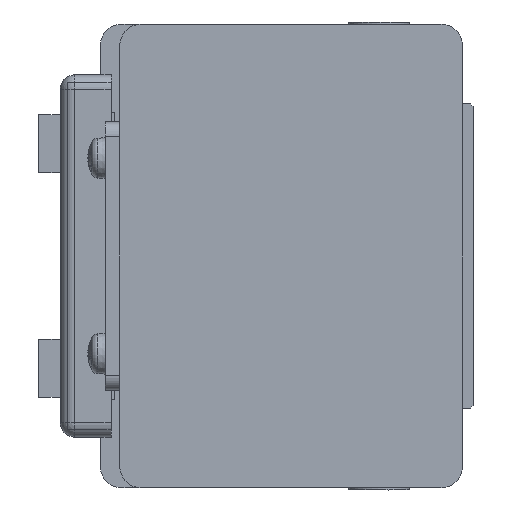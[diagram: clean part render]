
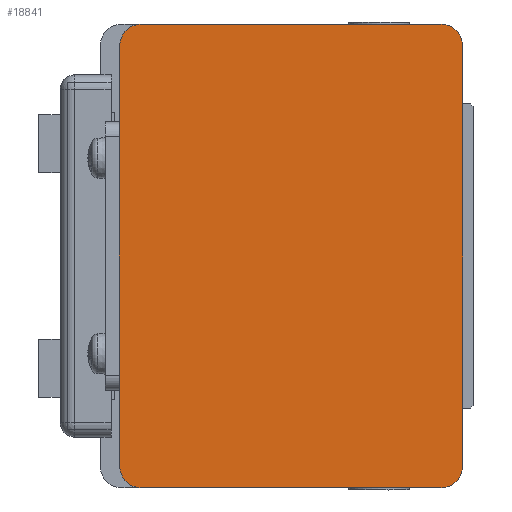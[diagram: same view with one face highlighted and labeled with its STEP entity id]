
A CAD part, left-side view. The second image highlights one B-rep face of the part: STEP entity #18841.
In plain terms, the highlighted planar face has unit normal (-1, 0, 0) as drawn and (0, 0, -1) by its records, which use the part's own axes.
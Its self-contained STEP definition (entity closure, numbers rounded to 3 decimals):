
#779=LINE('',#26563,#2431);
#794=LINE('',#26605,#2446);
#839=LINE('',#26714,#2491);
#861=LINE('',#26783,#2513);
#874=LINE('',#26818,#2526);
#875=LINE('',#26821,#2527);
#876=LINE('',#26822,#2528);
#877=LINE('',#26827,#2529);
#2431=VECTOR('',#21701,19.);
#2446=VECTOR('',#21734,41.3);
#2491=VECTOR('',#21823,41.3);
#2513=VECTOR('',#21883,19.);
#2526=VECTOR('',#21918,0.1);
#2527=VECTOR('',#21921,20.);
#2528=VECTOR('',#21922,0.1);
#2529=VECTOR('',#21927,58.);
#4230=PLANE('',#20055);
#5026=FACE_OUTER_BOUND('',#6124,.T.);
#6124=EDGE_LOOP('',(#12650,#12651,#12652,#12653,#12654,#12655,#12656,#12657,
#12658,#12659,#12660,#12661));
#7354=CIRCLE('',#20056,3.);
#7355=CIRCLE('',#20057,3.);
#7356=CIRCLE('',#20058,3.);
#7357=CIRCLE('',#20059,3.);
#7895=VERTEX_POINT('',#26560);
#7896=VERTEX_POINT('',#26562);
#7913=VERTEX_POINT('',#26602);
#7914=VERTEX_POINT('',#26604);
#7955=VERTEX_POINT('',#26711);
#7956=VERTEX_POINT('',#26713);
#7983=VERTEX_POINT('',#26780);
#7984=VERTEX_POINT('',#26782);
#7995=VERTEX_POINT('',#26816);
#7996=VERTEX_POINT('',#26820);
#7997=VERTEX_POINT('',#26824);
#7998=VERTEX_POINT('',#26826);
#9740=EDGE_CURVE('',#7896,#7895,#779,.T.);
#9761=EDGE_CURVE('',#7914,#7913,#794,.T.);
#9816=EDGE_CURVE('',#7956,#7955,#839,.T.);
#9850=EDGE_CURVE('',#7984,#7983,#861,.T.);
#9869=EDGE_CURVE('',#7995,#7895,#874,.T.);
#9870=EDGE_CURVE('',#7996,#7995,#875,.T.);
#9871=EDGE_CURVE('',#7984,#7996,#876,.T.);
#9872=EDGE_CURVE('',#7983,#7956,#7354,.T.);
#9873=EDGE_CURVE('',#7955,#7997,#7355,.T.);
#9874=EDGE_CURVE('',#7997,#7998,#877,.T.);
#9875=EDGE_CURVE('',#7998,#7914,#7356,.T.);
#9876=EDGE_CURVE('',#7913,#7896,#7357,.T.);
#12650=ORIENTED_EDGE('',*,*,#9740,.T.);
#12651=ORIENTED_EDGE('',*,*,#9869,.F.);
#12652=ORIENTED_EDGE('',*,*,#9870,.F.);
#12653=ORIENTED_EDGE('',*,*,#9871,.F.);
#12654=ORIENTED_EDGE('',*,*,#9850,.T.);
#12655=ORIENTED_EDGE('',*,*,#9872,.T.);
#12656=ORIENTED_EDGE('',*,*,#9816,.T.);
#12657=ORIENTED_EDGE('',*,*,#9873,.T.);
#12658=ORIENTED_EDGE('',*,*,#9874,.T.);
#12659=ORIENTED_EDGE('',*,*,#9875,.T.);
#12660=ORIENTED_EDGE('',*,*,#9761,.T.);
#12661=ORIENTED_EDGE('',*,*,#9876,.T.);
#18841=ADVANCED_FACE('',(#5026),#4230,.F.);
#20055=AXIS2_PLACEMENT_3D('',#26819,#21919,#21920);
#20056=AXIS2_PLACEMENT_3D('',#26823,#21923,#21924);
#20057=AXIS2_PLACEMENT_3D('',#26825,#21925,#21926);
#20058=AXIS2_PLACEMENT_3D('',#26828,#21928,#21929);
#20059=AXIS2_PLACEMENT_3D('',#26829,#21930,#21931);
#21701=DIRECTION('',(1.,0.,0.));
#21734=DIRECTION('',(0.,1.,0.));
#21823=DIRECTION('',(0.,-1.,0.));
#21883=DIRECTION('',(1.,0.,0.));
#21918=DIRECTION('',(0.,-1.,0.));
#21919=DIRECTION('center_axis',(0.,0.,1.));
#21920=DIRECTION('ref_axis',(1.,0.,0.));
#21921=DIRECTION('',(-1.,0.,0.));
#21922=DIRECTION('',(0.,1.,0.));
#21923=DIRECTION('center_axis',(0.,0.,-1.));
#21924=DIRECTION('ref_axis',(-1.,0.,0.));
#21925=DIRECTION('center_axis',(0.,0.,-1.));
#21926=DIRECTION('ref_axis',(0.,1.,0.));
#21927=DIRECTION('',(-1.,0.,0.));
#21928=DIRECTION('center_axis',(0.,0.,-1.));
#21929=DIRECTION('ref_axis',(1.,0.,0.));
#21930=DIRECTION('center_axis',(0.,0.,-1.));
#21931=DIRECTION('ref_axis',(0.,-1.,0.));
#26560=CARTESIAN_POINT('',(22.,48.8,-292.));
#26562=CARTESIAN_POINT('',(3.,48.8,-292.));
#26563=CARTESIAN_POINT('',(3.,48.8,-292.));
#26602=CARTESIAN_POINT('',(0.,45.8,-292.));
#26604=CARTESIAN_POINT('',(0.,4.5,-292.));
#26605=CARTESIAN_POINT('',(0.,4.5,-292.));
#26711=CARTESIAN_POINT('',(64.,4.5,-292.));
#26713=CARTESIAN_POINT('',(64.,45.8,-292.));
#26714=CARTESIAN_POINT('',(64.,45.8,-292.));
#26780=CARTESIAN_POINT('',(61.,48.8,-292.));
#26782=CARTESIAN_POINT('',(42.,48.8,-292.));
#26783=CARTESIAN_POINT('',(42.,48.8,-292.));
#26816=CARTESIAN_POINT('',(22.,48.9,-292.));
#26818=CARTESIAN_POINT('',(22.,48.9,-292.));
#26819=CARTESIAN_POINT('Origin',(32.,25.15,-292.));
#26820=CARTESIAN_POINT('',(42.,48.9,-292.));
#26821=CARTESIAN_POINT('',(42.,48.9,-292.));
#26822=CARTESIAN_POINT('',(42.,48.8,-292.));
#26823=CARTESIAN_POINT('Origin',(61.,45.8,-292.));
#26824=CARTESIAN_POINT('',(61.,1.5,-292.));
#26825=CARTESIAN_POINT('Origin',(61.,4.5,-292.));
#26826=CARTESIAN_POINT('',(3.,1.5,-292.));
#26827=CARTESIAN_POINT('',(61.,1.5,-292.));
#26828=CARTESIAN_POINT('Origin',(3.,4.5,-292.));
#26829=CARTESIAN_POINT('Origin',(3.,45.8,-292.));
